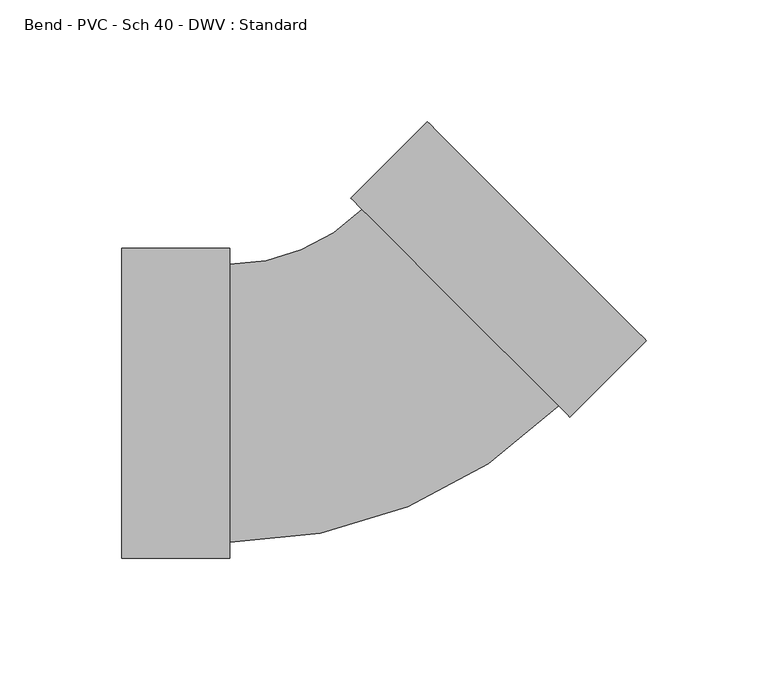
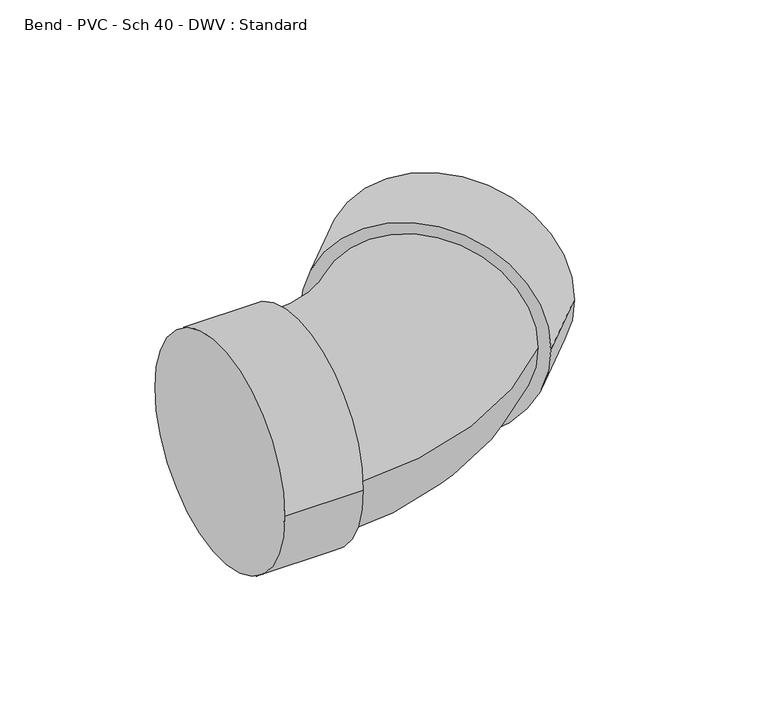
"""IFC4 building model written with IfcOpenShell, lengths in millimetres: pipe fitting geometry, Bend - PVC - Sch 40 - DWV : Standard."""

from ifc_helpers import new_model, si_unit, point, frame, origin, place, context, project, spatial, circle_curve, ellipse_curve, trimmed, source, transform, mapped, element, save
from ifc_brep_helpers import plane_surface, cylinder_surface, revolved_surface, advanced_brep


def bend_pvc_sch_40_dwv_standard_d299c5eb(model_context):
    return source(origin(), model_context, "Body", "AdvancedBrep", [
        advanced_brep(
        [(-100.0252, -63.754, 0.0), (-100.0252, 63.754, 0.0), (-55.5752, -63.754, 0.0), (-55.5752, 63.754, 0.0), (-55.5752, -57.15, 0.0), (-55.5752, 57.15, 0.0), (-1.1099696, 79.7088033, 0.0), (79.7087032, -1.117134, 0.0), (84.3782265, -5.787077, 0.0), (-5.7794929, 84.3787463, 0.0), (115.8105355, 25.6424068, 0.0), (25.6528161, 115.8082302, 0.0)],
        [
            (0, 1, circle_curve(frame((-100.0252, 0.0, 0.0), z_axis=(-1.0, 0.0, 0.0), x_axis=(0.0, 1.0, 0.0)), 63.754)),
            (1, 0, circle_curve(frame((-100.0252, 0.0, 0.0), z_axis=(-1.0, 0.0, 0.0), x_axis=(0.0, 1.0, 0.0)), 63.754)),
            (2, 3, circle_curve(frame((-55.5752, 0.0, 0.0), z_axis=(1.0, 0.0, 0.0), x_axis=(0.0, 1.0, 0.0)), 63.754)),
            (3, 2, circle_curve(frame((-55.5752, 0.0, 0.0), z_axis=(1.0, 0.0, 0.0), x_axis=(0.0, 1.0, 0.0)), 63.754)),
            (4, 5, circle_curve(frame((-55.5752, 0.0, 0.0), z_axis=(-1.0, 0.0, 0.0), x_axis=(0.0, 1.0, 0.0)), 57.15)),
            (5, 4, circle_curve(frame((-55.5752, 0.0, 0.0), z_axis=(-1.0, 0.0, 0.0), x_axis=(0.0, 1.0, 0.0)), 57.15)),
            (0, 2),
            (3, 1),
            (6, 5, circle_curve(frame((-55.5752, 134.1789294, 0.0), z_axis=(0.0, 0.0, -1.0), x_axis=(0.0, -1.0, 0.0)), 77.0289294)),
            (4, 7, circle_curve(frame((-55.5752, 134.1789294, 0.0), z_axis=(0.0, 0.0, 1.0), x_axis=(0.0, -1.0, 0.0)), 191.3289294)),
            (7, 6, circle_curve(frame((39.2993668, 39.2958347, 0.0), z_axis=(-0.7071385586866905, -0.707075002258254, 0.0), x_axis=(-0.707075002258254, 0.7071385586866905, 0.0)), 57.15)),
            (6, 7, circle_curve(frame((39.2993668, 39.2958347, 0.0), z_axis=(-0.7071385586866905, -0.707075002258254, 0.0), x_axis=(-0.707075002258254, 0.7071385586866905, 0.0)), 57.15)),
            (8, 9, circle_curve(frame((39.2993668, 39.2958347, 0.0), z_axis=(-0.7071385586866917, -0.7070750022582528, 0.0), x_axis=(-0.7070750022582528, 0.7071385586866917, 0.0)), 63.754)),
            (9, 8, circle_curve(frame((39.2993668, 39.2958347, 0.0), z_axis=(-0.7071385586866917, -0.7070750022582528, 0.0), x_axis=(-0.7070750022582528, 0.7071385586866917, 0.0)), 63.754)),
            (10, 11, circle_curve(frame((70.7316758, 70.7253185, 0.0), z_axis=(0.7071385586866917, 0.7070750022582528, 0.0), x_axis=(-0.7070750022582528, 0.7071385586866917, 0.0)), 63.754)),
            (11, 10, circle_curve(frame((70.7316758, 70.7253185, 0.0), z_axis=(0.7071385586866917, 0.7070750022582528, 0.0), x_axis=(-0.7070750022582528, 0.7071385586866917, 0.0)), 63.754)),
            (8, 10),
            (11, 9),
        ],
        [
            plane_surface(frame((-100.0252, 0.0, 0.0), z_axis=(-1.0, 0.0, 0.0), x_axis=(0.0, 0.0, 1.0))),
            plane_surface(frame((-55.5752, 0.0, 0.0), z_axis=(1.0, 0.0, 0.0), x_axis=(0.0, 0.0, 1.0))),
            cylinder_surface(frame((-100.0252, 0.0, 0.0), z_axis=(-1.0, 0.0, 0.0), x_axis=(0.0, 1.0, 0.0)), 63.754),
            revolved_surface(trimmed(ellipse_curve(frame((-55.5752, 0.0, 0.0), z_axis=(-1.0, 0.0, 0.0), x_axis=(0.0, 1.0, 0.0)), 57.15, 57.15), [point((-55.5752, -57.15, 0.0))], [point((-55.5752, 57.15, 0.0))], True, "CARTESIAN"), (-55.5752, 134.1789294, 0.0), (0.0, 0.0, 1.0)),
            revolved_surface(trimmed(ellipse_curve(frame((-55.5752, 0.0, 0.0), z_axis=(-1.0, 0.0, 0.0), x_axis=(0.0, 1.0, 0.0)), 57.15, 57.15), [point((-55.5752, 57.15, 0.0))], [point((-55.5752, -57.15, 0.0))], True, "CARTESIAN"), (-55.5752, 134.1789294, 0.0), (0.0, 0.0, 1.0)),
            plane_surface(frame((39.2993668, 39.2958347, 0.0), z_axis=(-0.7071385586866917, -0.7070750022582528, 0.0), x_axis=(0.0, 0.0, 1.0))),
            plane_surface(frame((70.7316758, 70.7253185, 0.0), z_axis=(0.7071385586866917, 0.7070750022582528, 0.0), x_axis=(0.0, 0.0, 1.0))),
            cylinder_surface(frame((39.2993668, 39.2958347, 0.0), z_axis=(-0.7071385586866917, -0.7070750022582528, 0.0), x_axis=(-0.7070750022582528, 0.7071385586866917, 0.0)), 63.754),
        ],
        [
            (0, [[1, 2]]),
            (1, [[3, 4], [5, 6]]),
            (2, [[-1, 7, -4, 8]]),
            (2, [[-2, -8, -3, -7]]),
            (3, [[9, -5, 10, 11]]),
            (4, [[-9, 12, -10, -6]]),
            (5, [[13, 14], [-11, -12]]),
            (6, [[15, 16]]),
            (7, [[-13, 17, -16, 18]]),
            (7, [[-14, -18, -15, -17]]),
        ],
    ),
    ])


if __name__ == "__main__":
    model = new_model("IFC4")
    model_context = context("Model", 3, world=origin())
    ifc_project = project(units=[si_unit("LENGTHUNIT", "METRE", prefix="MILLI")], contexts=[model_context])
    site = spatial("IfcSite", under=ifc_project)
    building = spatial("IfcBuilding", under=site)
    placement = place(None, origin())
    bend_pvc_sch_40_dwv_standard_shape = bend_pvc_sch_40_dwv_standard_d299c5eb(model_context)
    element("IfcPipeFitting", 1, ObjectType="Bend - PVC - Sch 40 - DWV : Standard", at=placement, inside=building, context=model_context, shape_type="MappedRepresentation", body=[
        mapped(bend_pvc_sch_40_dwv_standard_shape, transform((0.0, 0.0, 0.0), x_axis=(1.0, 0.0, 0.0), y_axis=(0.0, 1.0, 0.0), z_axis=(0.0, 0.0, 1.0))),
    ])
    save(model, "model.ifc")
